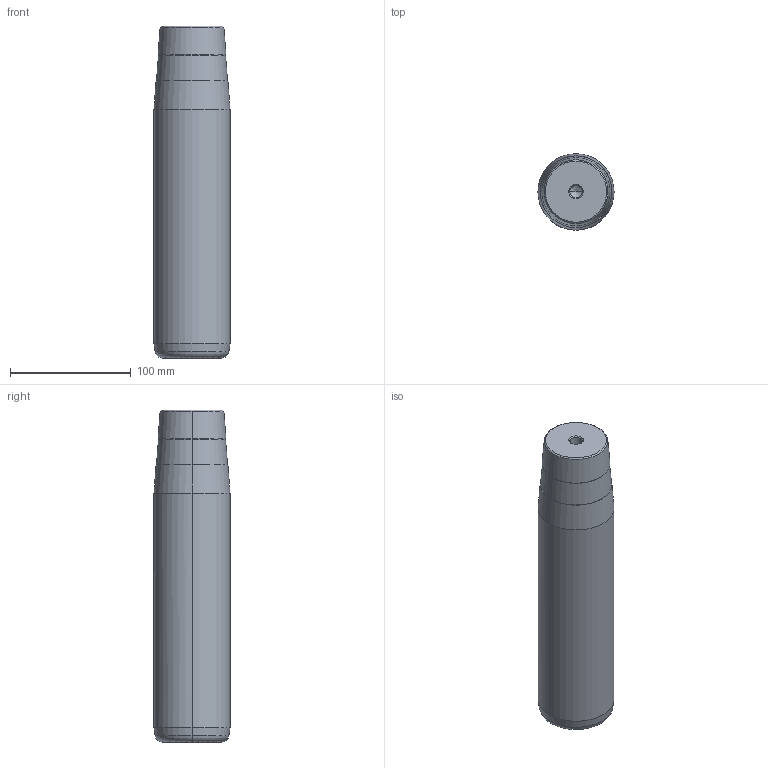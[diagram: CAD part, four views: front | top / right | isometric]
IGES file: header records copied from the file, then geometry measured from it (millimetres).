
Start section: START RECORD GO HERE.
Global section: file name: 722-63x224x275.igs; native system: DASSAULT SYSTEMES CATIA V5 R20 - www.3ds.com; preprocessor: CATIA Version 5 Release 20 ; author: Utente; organization: NB04-ASUS; date: 20210107.202405; units: millimetre
Bounding box: 63 x 63 x 275 mm (x, y, z)
Surface area: 59676.5 mm2 (no closed solid volume)
Topology: 0 solids, 0 shells, 32 faces, 128 edges, 124 vertices
Faces by surface type: revolution 30, plane 2
